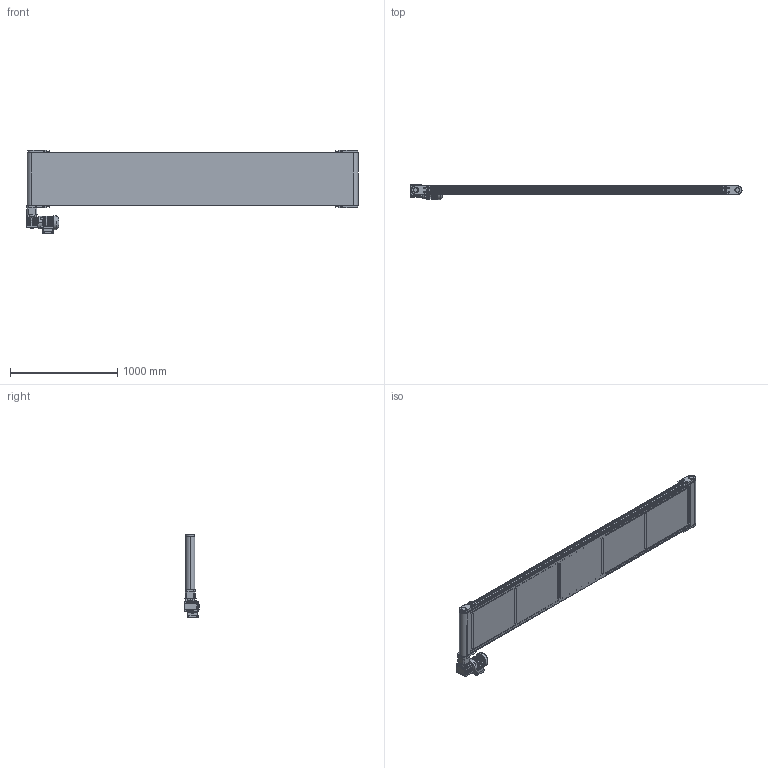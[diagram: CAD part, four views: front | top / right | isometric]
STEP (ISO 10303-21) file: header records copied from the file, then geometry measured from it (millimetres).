
FILE_DESCRIPTION(('STEP AP214'),'1');
FILE_NAME('fb-80-du-500-3000-1.stp','2020-02-10T09:30:08',('TraceParts'),('TraceParts S.A.'),'Spatial InterOp 3D',' ',' ');
FILE_SCHEMA(('AUTOMOTIVE_DESIGN { 1 0 10303 214 1 1 1 1 }'));
Length unit declared in the file: millimetre
Products named in the file (1): fb-80-du-500-3000-1_1
Bounding box: 3098.5 x 144 x 781.5 mm (x, y, z)
Volume: 24283226 mm3; surface area: 13322071 mm2
Topology: 53 solids, 62 shells, 4536 faces, 12685 edges, 8376 vertices
Faces by surface type: plane 2424, cylinder 2001, cone 105, sphere 4, torus 2
Entity records: 165223 total; most frequent: DIRECTION 26039, CARTESIAN_POINT 25997, ORIENTED_EDGE 25360, EDGE_CURVE 12680, AXIS2_PLACEMENT_3D 8905, VERTEX_POINT 8376, LINE 8229, VECTOR 8229
